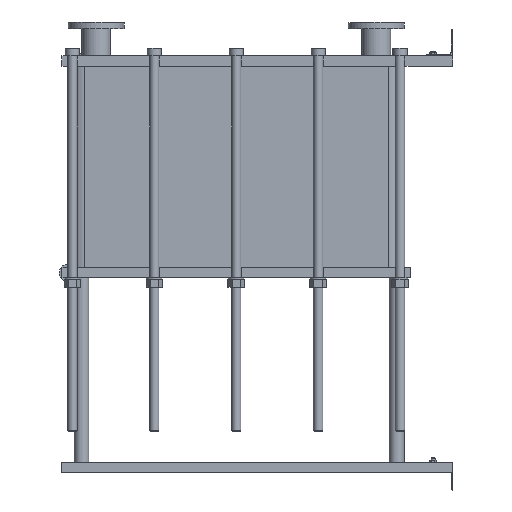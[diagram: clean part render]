
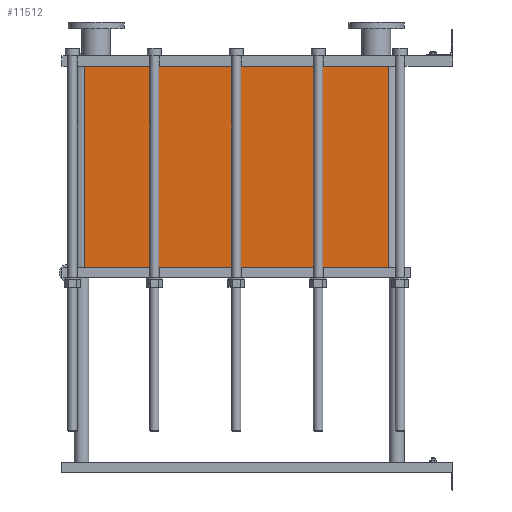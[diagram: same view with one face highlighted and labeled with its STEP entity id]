
A CAD part, left-side view. The second image highlights one B-rep face of the part: STEP entity #11512.
In plain terms, the highlighted planar face has unit normal (-1, 0, 0).
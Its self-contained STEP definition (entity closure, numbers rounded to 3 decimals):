
#1129=LINE('',#23232,#2102);
#1130=LINE('',#23236,#2103);
#1131=LINE('',#23238,#2104);
#1132=LINE('',#23239,#2105);
#2102=VECTOR('',#15887,10.);
#2103=VECTOR('',#15892,10.);
#2104=VECTOR('',#15893,10.);
#2105=VECTOR('',#15894,10.);
#3267=FACE_OUTER_BOUND('',#4093,.T.);
#4093=EDGE_LOOP('',(#10103,#10104,#10105,#10106));
#5642=VERTEX_POINT('',#23229);
#5643=VERTEX_POINT('',#23231);
#5644=VERTEX_POINT('',#23235);
#5645=VERTEX_POINT('',#23237);
#7159=EDGE_CURVE('',#5643,#5642,#1129,.T.);
#7161=EDGE_CURVE('',#5642,#5644,#1130,.T.);
#7162=EDGE_CURVE('',#5645,#5644,#1131,.T.);
#7163=EDGE_CURVE('',#5645,#5643,#1132,.T.);
#10103=ORIENTED_EDGE('',*,*,#7161,.T.);
#10104=ORIENTED_EDGE('',*,*,#7162,.F.);
#10105=ORIENTED_EDGE('',*,*,#7163,.T.);
#10106=ORIENTED_EDGE('',*,*,#7159,.T.);
#10857=PLANE('',#12751);
#11512=ADVANCED_FACE('',(#3267),#10857,.T.);
#12751=AXIS2_PLACEMENT_3D('',#23234,#15890,#15891);
#15887=DIRECTION('',(0.,0.,-1.));
#15890=DIRECTION('center_axis',(-1.,0.,0.));
#15891=DIRECTION('ref_axis',(0.,1.,0.));
#15892=DIRECTION('',(0.,-1.,0.));
#15893=DIRECTION('',(0.,0.,-1.));
#15894=DIRECTION('',(0.,1.,0.));
#23229=CARTESIAN_POINT('',(-200.,1414.,-772.8));
#23231=CARTESIAN_POINT('',(-200.,1414.,0.));
#23232=CARTESIAN_POINT('',(-200.,1414.,0.));
#23234=CARTESIAN_POINT('Origin',(-200.,248.,0.));
#23235=CARTESIAN_POINT('',(-200.,248.,-772.8));
#23236=CARTESIAN_POINT('',(-200.,539.5,-772.8));
#23237=CARTESIAN_POINT('',(-200.,248.,0.));
#23238=CARTESIAN_POINT('',(-200.,248.,0.));
#23239=CARTESIAN_POINT('',(-200.,248.,0.));
